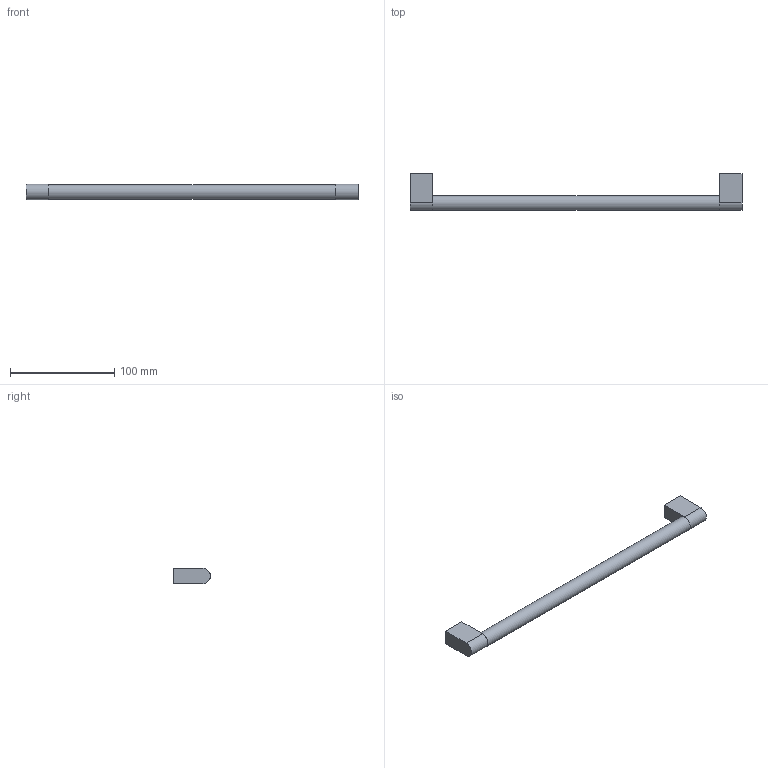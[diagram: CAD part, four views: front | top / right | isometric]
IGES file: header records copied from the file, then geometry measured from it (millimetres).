
Start section: Data from Parasolid IGES Translator 20.0.26, Copyright(c) 2006 Siemens P LM Software. All Rights Reserved.
Global section: file name: 9332352.igs; native system: By Siemens PLM Incorporated; preprocessor: XPlus GENERIC/IGES 20.0.26; author: Noname; organization: Noname; date: 20230829.122815; units: millimetre
Bounding box: 318 x 35.36 x 14.64 mm (x, y, z)
Surface area: 18593.1 mm2 (no closed solid volume)
Topology: 0 solids, 0 shells, 17 faces, 66 edges, 62 vertices
Faces by surface type: extrusion 12, revolution 5
